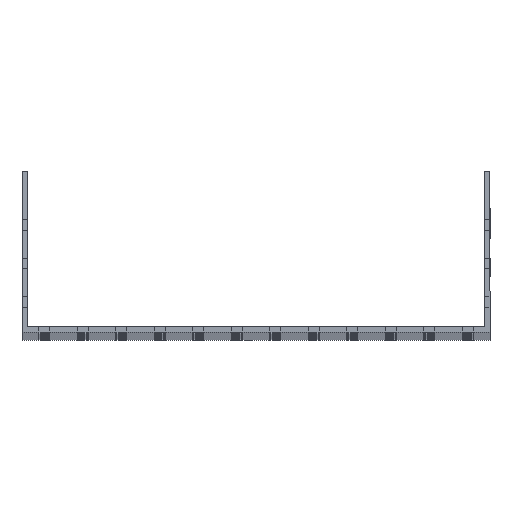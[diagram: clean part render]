
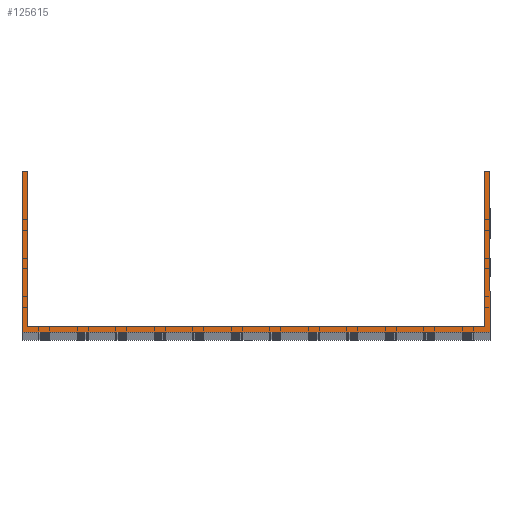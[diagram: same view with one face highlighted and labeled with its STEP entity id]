
A CAD part, top view. The second image highlights one B-rep face of the part: STEP entity #125615.
In plain terms, the highlighted planar face has unit normal (0, 0, 1).
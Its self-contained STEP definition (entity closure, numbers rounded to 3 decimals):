
#396 = ORIENTED_EDGE ( 'NONE', *, *, #132640, .T. ) ;
#10437 = DIRECTION ( 'NONE',  ( 0., 1., 0. ) ) ;
#10991 = VERTEX_POINT ( 'NONE', #97075 ) ;
#12437 = VERTEX_POINT ( 'NONE', #96461 ) ;
#16302 = EDGE_CURVE ( 'NONE', #61140, #67706, #54834, .T. ) ;
#21602 = VERTEX_POINT ( 'NONE', #145453 ) ;
#22246 = DIRECTION ( 'NONE',  ( 1., 0., 0. ) ) ;
#24707 = CARTESIAN_POINT ( 'NONE',  ( 152., 104., 1500. ) ) ;
#28467 = LINE ( 'NONE', #112238, #43111 ) ;
#30084 = CARTESIAN_POINT ( 'NONE',  ( 152., 104., 1500. ) ) ;
#43111 = VECTOR ( 'NONE', #56985, 1000. ) ;
#49630 = CARTESIAN_POINT ( 'NONE',  ( -152., 104., 1500. ) ) ;
#52363 = EDGE_CURVE ( 'NONE', #102356, #21602, #28467, .T. ) ;
#54726 = EDGE_CURVE ( 'NONE', #133597, #140917, #176017, .T. ) ;
#54834 = LINE ( 'NONE', #66480, #100464 ) ;
#55511 = CARTESIAN_POINT ( 'NONE',  ( 148.5, 104., 1500. ) ) ;
#55948 = EDGE_CURVE ( 'NONE', #67706, #10991, #65508, .T. ) ;
#56985 = DIRECTION ( 'NONE',  ( 0., -1., 0. ) ) ;
#57854 = VECTOR ( 'NONE', #86776, 1000. ) ;
#59110 = EDGE_CURVE ( 'NONE', #10991, #140917, #111519, .T. ) ;
#61140 = VERTEX_POINT ( 'NONE', #165962 ) ;
#65508 = LINE ( 'NONE', #160909, #57854 ) ;
#65732 = LINE ( 'NONE', #24707, #147890 ) ;
#66480 = CARTESIAN_POINT ( 'NONE',  ( -148.5, 104., 1500. ) ) ;
#67706 = VERTEX_POINT ( 'NONE', #131629 ) ;
#72706 = ORIENTED_EDGE ( 'NONE', *, *, #55948, .F. ) ;
#73152 = CARTESIAN_POINT ( 'NONE',  ( 148.5, 104., 1500. ) ) ;
#73764 = DIRECTION ( 'NONE',  ( -1., 0., 0. ) ) ;
#74036 = DIRECTION ( 'NONE',  ( 0., 1., 0. ) ) ;
#79860 = DIRECTION ( 'NONE',  ( 0., -1., 0. ) ) ;
#85381 = LINE ( 'NONE', #127273, #106606 ) ;
#86776 = DIRECTION ( 'NONE',  ( 1., 0., 0. ) ) ;
#90902 = CARTESIAN_POINT ( 'NONE',  ( 0., 0., 1500. ) ) ;
#91930 = EDGE_LOOP ( 'NONE', ( #123796, #132830, #121740, #396, #156783, #174709, #141831, #72706 ) ) ;
#93628 = AXIS2_PLACEMENT_3D ( 'NONE', #90902, #102506, #22246 ) ;
#94851 = DIRECTION ( 'NONE',  ( -1., 0., 0. ) ) ;
#96461 = CARTESIAN_POINT ( 'NONE',  ( 152., 0., 1500. ) ) ;
#97075 = CARTESIAN_POINT ( 'NONE',  ( 148.5, 3.5, 1500. ) ) ;
#100464 = VECTOR ( 'NONE', #79860, 1000. ) ;
#102356 = VERTEX_POINT ( 'NONE', #49630 ) ;
#102506 = DIRECTION ( 'NONE',  ( 0., 0., 1. ) ) ;
#106606 = VECTOR ( 'NONE', #73764, 1000. ) ;
#111519 = LINE ( 'NONE', #73152, #166795 ) ;
#112238 = CARTESIAN_POINT ( 'NONE',  ( -152., 104., 1500. ) ) ;
#118532 = PLANE ( 'NONE',  #93628 ) ;
#118994 = EDGE_CURVE ( 'NONE', #61140, #102356, #85381, .T. ) ;
#121740 = ORIENTED_EDGE ( 'NONE', *, *, #52363, .T. ) ;
#123796 = ORIENTED_EDGE ( 'NONE', *, *, #16302, .F. ) ;
#125615 = ADVANCED_FACE ( 'NONE', ( #172935 ), #118532, .T. ) ;
#127273 = CARTESIAN_POINT ( 'NONE',  ( -152., 104., 1500. ) ) ;
#131629 = CARTESIAN_POINT ( 'NONE',  ( -148.5, 3.5, 1500. ) ) ;
#132640 = EDGE_CURVE ( 'NONE', #21602, #12437, #156034, .T. ) ;
#132830 = ORIENTED_EDGE ( 'NONE', *, *, #118994, .T. ) ;
#133597 = VERTEX_POINT ( 'NONE', #30084 ) ;
#136744 = CARTESIAN_POINT ( 'NONE',  ( -152., 104., 1500. ) ) ;
#140917 = VERTEX_POINT ( 'NONE', #55511 ) ;
#141831 = ORIENTED_EDGE ( 'NONE', *, *, #59110, .F. ) ;
#145453 = CARTESIAN_POINT ( 'NONE',  ( -152., 0., 1500. ) ) ;
#147890 = VECTOR ( 'NONE', #10437, 1000. ) ;
#153400 = CARTESIAN_POINT ( 'NONE',  ( -152., 0., 1500. ) ) ;
#154355 = VECTOR ( 'NONE', #94851, 1000. ) ;
#156034 = LINE ( 'NONE', #153400, #168923 ) ;
#156783 = ORIENTED_EDGE ( 'NONE', *, *, #157563, .T. ) ;
#157563 = EDGE_CURVE ( 'NONE', #12437, #133597, #65732, .T. ) ;
#160909 = CARTESIAN_POINT ( 'NONE',  ( -152., 3.5, 1500. ) ) ;
#165884 = DIRECTION ( 'NONE',  ( 1., 0., 0. ) ) ;
#165962 = CARTESIAN_POINT ( 'NONE',  ( -148.5, 104., 1500. ) ) ;
#166795 = VECTOR ( 'NONE', #74036, 1000. ) ;
#168923 = VECTOR ( 'NONE', #165884, 1000. ) ;
#172935 = FACE_OUTER_BOUND ( 'NONE', #91930, .T. ) ;
#174709 = ORIENTED_EDGE ( 'NONE', *, *, #54726, .T. ) ;
#176017 = LINE ( 'NONE', #136744, #154355 ) ;
